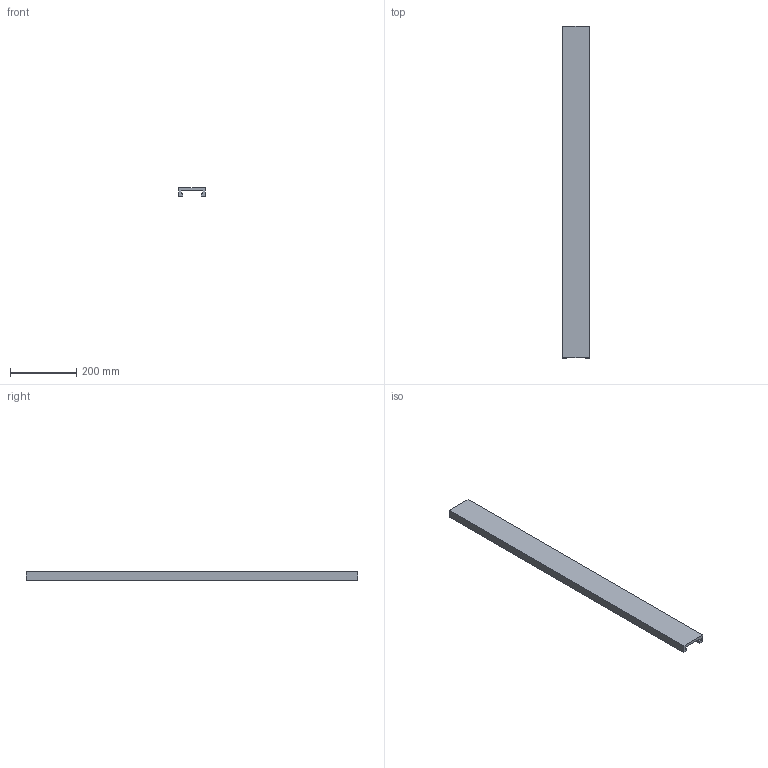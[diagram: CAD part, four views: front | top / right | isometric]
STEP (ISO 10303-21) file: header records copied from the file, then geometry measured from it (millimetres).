
FILE_DESCRIPTION (( 'STEP AP214' ), '1' );
FILE_NAME ('KARDENÝK KIZAK KULAKLI..STEP', '2022-02-24T05:40:45', ( '' ), ( '' ), 'SwSTEP 2.0', 'SolidWorks 2021', '' );
FILE_SCHEMA (( 'AUTOMOTIVE_DESIGN' ));
Length unit declared in the file: millimetre
Products named in the file (1): KARDENÝK KIZAK KULAKLI.
Bounding box: 80 x 1000 x 25 mm (x, y, z)
Volume: 1040000 mm3; surface area: 264080 mm2
Topology: 1 solids, 1 shells, 14 faces, 36 edges, 24 vertices
Faces by surface type: plane 14
Entity records: 454 total; most frequent: CARTESIAN_POINT 75, ORIENTED_EDGE 72, DIRECTION 66, LINE 36, VECTOR 36, EDGE_CURVE 36, VERTEX_POINT 24, AXIS2_PLACEMENT_3D 15
